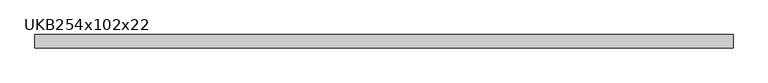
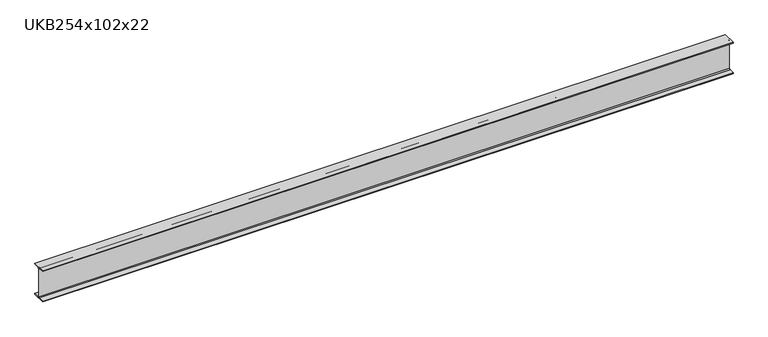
"""IFC4 building model written with IfcOpenShell, lengths in millimetres: beam geometry, UKB-UK Beams : UKB254x102x22."""

from ifc_helpers import new_model, si_unit, point, frame, frame_2d, origin, place, context, project, spatial, polyline, circle_curve, trimmed, segment, composite_curve, outline, extrude, source, transform, mapped, element, save


def ukb254x102x22_70f9bd95(model_context):
    return source(origin(), model_context, "Body", "SweptSolid", [
        extrude(outline(composite_curve([segment(polyline([(50.8, -120.2), (50.8, -127.0), (-50.8, -127.0), (-50.8, -120.2), (-10.45, -120.2)]), True, "CONTINUOUS"), segment(trimmed(circle_curve(frame_2d((-10.45, -112.6)), 7.6), [point((-10.45, -120.2))], [point((-2.85, -112.6))], True, "CARTESIAN"), True, "CONTINUOUS"), segment(polyline([(-2.85, -112.6), (-2.85, 112.6)]), True, "CONTINUOUS"), segment(trimmed(circle_curve(frame_2d((-10.45, 112.6)), 7.6), [point((-2.85, 112.6))], [point((-10.45, 120.2))], True, "CARTESIAN"), True, "CONTINUOUS"), segment(polyline([(-10.45, 120.2), (-50.8, 120.2), (-50.8, 127.0), (50.8, 127.0), (50.8, 120.2), (10.45, 120.2)]), True, "CONTINUOUS"), segment(trimmed(circle_curve(frame_2d((10.45, 112.6)), 7.6), [point((10.45, 120.2))], [point((2.85, 112.6))], True, "CARTESIAN"), True, "CONTINUOUS"), segment(polyline([(2.85, 112.6), (2.85, -112.6)]), True, "CONTINUOUS"), segment(trimmed(circle_curve(frame_2d((10.45, -112.6)), 7.6), [point((2.85, -112.6))], [point((10.45, -120.2))], True, "CARTESIAN"), True, "CONTINUOUS"), segment(polyline([(10.45, -120.2), (50.8, -120.2)]), True, "CONTINUOUS")], self_intersect=False)), frame((-2660.5, 0.0, 0.0), z_axis=(1.0, 0.0, 0.0), x_axis=(0.0, 1.0, 0.0)), (0.0, 0.0, 1.0), 5321.0),
    ])


if __name__ == "__main__":
    model = new_model("IFC4")
    model_context = context("Model", 3, world=origin())
    ifc_project = project(units=[si_unit("LENGTHUNIT", "METRE", prefix="MILLI")], contexts=[model_context])
    site = spatial("IfcSite", under=ifc_project)
    building = spatial("IfcBuilding", under=site)
    placement = place(None, origin())
    ukb254x102x22_shape = ukb254x102x22_70f9bd95(model_context)
    element("IfcBeam", 1, ObjectType="UKB-UK Beams : UKB254x102x22", at=placement, inside=building, context=model_context, shape_type="MappedRepresentation", body=[
        mapped(ukb254x102x22_shape, transform((0.0, 0.0, 0.0), x_axis=(1.0, 0.0, 0.0), y_axis=(0.0, 1.0, 0.0), z_axis=(0.0, 0.0, 1.0))),
    ])
    save(model, "model.ifc")
